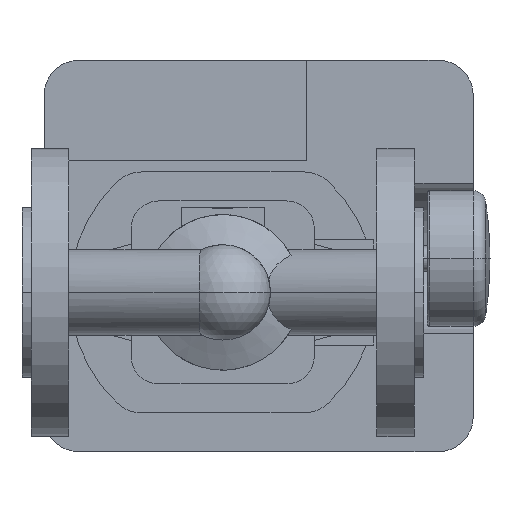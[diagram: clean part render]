
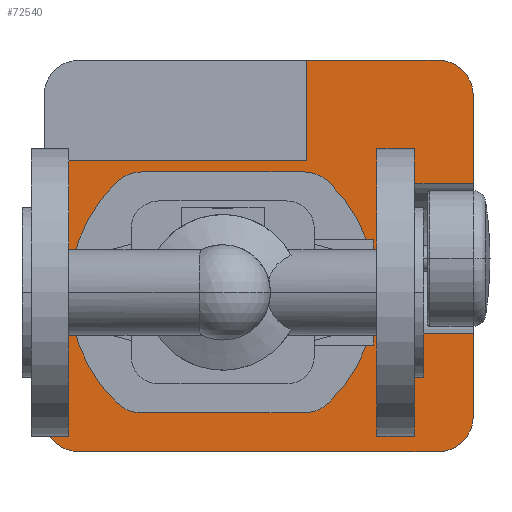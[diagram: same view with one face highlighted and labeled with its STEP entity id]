
A CAD part, front view. The second image highlights one B-rep face of the part: STEP entity #72540.
In plain terms, the highlighted planar face has unit normal (0, -1, 0).
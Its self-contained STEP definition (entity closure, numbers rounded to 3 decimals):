
#58000=CARTESIAN_POINT('',(8.8,498.,-49.5));
#58010=DIRECTION('',(0.,0.,1.));
#58020=VECTOR('',#58010,1.);
#58030=LINE('',#58000,#58020);
#58040=CARTESIAN_POINT('',(8.8,498.,-49.5));
#58050=VERTEX_POINT('',#58040);
#58060=CARTESIAN_POINT('',(8.8,498.,52.5));
#58070=VERTEX_POINT('',#58060);
#58080=EDGE_CURVE('',#58050,#58070,#58030,.T.);
#58640=CARTESIAN_POINT('',(22.8,498.,-49.5));
#58650=DIRECTION('',(0.,1.,0.));
#58660=DIRECTION('',(0.,0.,-1.));
#58670=AXIS2_PLACEMENT_3D('',#58640,#58650,#58660);
#58680=CIRCLE('',#58670,14.);
#58690=CARTESIAN_POINT('',(22.8,498.,-63.5));
#58700=VERTEX_POINT('',#58690);
#58710=EDGE_CURVE('',#58700,#58050,#58680,.T.);
#59250=CARTESIAN_POINT('',(165.8,498.,92.5));
#59260=VERTEX_POINT('',#59250);
#59290=CARTESIAN_POINT('',(22.8,498.,92.5));
#59300=DIRECTION('',(1.,0.,0.));
#59310=VECTOR('',#59300,1.);
#59320=LINE('',#59290,#59310);
#59330=CARTESIAN_POINT('',(113.3,498.,92.5));
#59340=VERTEX_POINT('',#59330);
#59350=EDGE_CURVE('',#59340,#59260,#59320,.T.);
#59670=CARTESIAN_POINT('',(165.8,498.,-63.5));
#59680=DIRECTION('',(-1.,0.,0.));
#59690=VECTOR('',#59680,1.);
#59700=LINE('',#59670,#59690);
#59710=CARTESIAN_POINT('',(165.8,498.,-63.5));
#59720=VERTEX_POINT('',#59710);
#59730=EDGE_CURVE('',#59720,#58700,#59700,.T.);
#60920=CARTESIAN_POINT('',(179.8,498.,-16.5));
#60930=VERTEX_POINT('',#60920);
#60960=CARTESIAN_POINT('',(129.9,498.,-16.5));
#60970=DIRECTION('',(-1.,0.,0.));
#60980=VECTOR('',#60970,1.);
#60990=LINE('',#60960,#60980);
#61000=CARTESIAN_POINT('',(147.8,498.,-16.5));
#61010=VERTEX_POINT('',#61000);
#61020=EDGE_CURVE('',#60930,#61010,#60990,.T.);
#61650=CARTESIAN_POINT('',(129.9,498.,43.5));
#61660=DIRECTION('',(1.,0.,0.));
#61670=VECTOR('',#61660,1.);
#61680=LINE('',#61650,#61670);
#61690=CARTESIAN_POINT('',(147.8,498.,43.5));
#61700=VERTEX_POINT('',#61690);
#61710=CARTESIAN_POINT('',(179.8,498.,43.5));
#61720=VERTEX_POINT('',#61710);
#61730=EDGE_CURVE('',#61700,#61720,#61680,.T.);
#62080=CARTESIAN_POINT('',(147.8,498.,0.));
#62090=DIRECTION('',(0.,0.,1.));
#62100=VECTOR('',#62090,1.);
#62110=LINE('',#62080,#62100);
#62120=EDGE_CURVE('',#61010,#61700,#62110,.T.);
#62320=CARTESIAN_POINT('',(179.8,498.,78.5));
#62330=DIRECTION('',(0.,0.,-1.));
#62340=VECTOR('',#62330,1.);
#62350=LINE('',#62320,#62340);
#62360=CARTESIAN_POINT('',(179.8,498.,78.5));
#62370=VERTEX_POINT('',#62360);
#62380=EDGE_CURVE('',#62370,#61720,#62350,.T.);
#62510=CARTESIAN_POINT('',(179.8,498.,-49.5));
#62520=VERTEX_POINT('',#62510);
#62550=CARTESIAN_POINT('',(179.8,498.,78.5));
#62560=DIRECTION('',(0.,0.,-1.));
#62570=VECTOR('',#62560,1.);
#62580=LINE('',#62550,#62570);
#62590=EDGE_CURVE('',#60930,#62520,#62580,.T.);
#63190=CARTESIAN_POINT('',(139.96,498.,11.216));
#63200=VERTEX_POINT('',#63190);
#63230=CARTESIAN_POINT('',(130.,498.,0.));
#63240=DIRECTION('',(0.,1.,0.));
#63250=DIRECTION('',(0.,0.,1.));
#63260=AXIS2_PLACEMENT_3D('',#63230,#63240,#63250);
#63270=CIRCLE('',#63260,15.);
#63280=CARTESIAN_POINT('',(139.96,498.,-11.216));
#63290=VERTEX_POINT('',#63280);
#63300=EDGE_CURVE('',#63200,#63290,#63270,.T.);
#66440=CARTESIAN_POINT('',(122.116,498.,44.128));
#66450=VERTEX_POINT('',#66440);
#66480=CARTESIAN_POINT('',(80.,498.,0.));
#66490=DIRECTION('',(0.,1.,0.));
#66500=DIRECTION('',(0.69,0.,0.723));
#66510=AXIS2_PLACEMENT_3D('',#66480,#66490,#66500);
#66520=CIRCLE('',#66510,61.);
#66530=EDGE_CURVE('',#66450,#63200,#66520,.T.);
#66990=CARTESIAN_POINT('',(20.04,498.,-11.216));
#67000=VERTEX_POINT('',#66990);
#67030=CARTESIAN_POINT('',(30.,498.,0.));
#67040=DIRECTION('',(0.,1.,0.));
#67050=DIRECTION('',(0.,0.,-1.));
#67060=AXIS2_PLACEMENT_3D('',#67030,#67040,#67050);
#67070=CIRCLE('',#67060,15.);
#67080=CARTESIAN_POINT('',(20.04,498.,11.216));
#67090=VERTEX_POINT('',#67080);
#67100=EDGE_CURVE('',#67000,#67090,#67070,.T.);
#68440=CARTESIAN_POINT('',(37.884,498.,-44.128));
#68450=VERTEX_POINT('',#68440);
#68480=CARTESIAN_POINT('',(80.,498.,0.));
#68490=DIRECTION('',(0.,1.,0.));
#68500=DIRECTION('',(-0.69,0.,-0.723));
#68510=AXIS2_PLACEMENT_3D('',#68480,#68490,#68500);
#68520=CIRCLE('',#68510,61.);
#68530=EDGE_CURVE('',#68450,#67000,#68520,.T.);
#71380=CARTESIAN_POINT('',(80.,498.,0.));
#71390=DIRECTION('',(0.,1.,0.));
#71400=DIRECTION('',(0.,0.,1.));
#71410=AXIS2_PLACEMENT_3D('',#71380,#71390,#71400);
#71420=PLANE('',#71410);
#71430=ORIENTED_EDGE('',*,*,#62120,.T.);
#71440=ORIENTED_EDGE('',*,*,#61020,.T.);
#71450=ORIENTED_EDGE('',*,*,#62590,.F.);
#71460=CARTESIAN_POINT('',(165.8,498.,-49.5));
#71470=DIRECTION('',(0.,1.,0.));
#71480=DIRECTION('',(1.,0.,0.));
#71490=AXIS2_PLACEMENT_3D('',#71460,#71470,#71480);
#71500=CIRCLE('',#71490,14.);
#71510=EDGE_CURVE('',#62520,#59720,#71500,.T.);
#71520=ORIENTED_EDGE('',*,*,#71510,.F.);
#71530=ORIENTED_EDGE('',*,*,#59730,.F.);
#71540=ORIENTED_EDGE('',*,*,#58710,.F.);
#71550=ORIENTED_EDGE('',*,*,#58080,.F.);
#71560=CARTESIAN_POINT('',(43.9,498.,52.5));
#71570=DIRECTION('',(-1.,0.,0.));
#71580=VECTOR('',#71570,1.);
#71590=LINE('',#71560,#71580);
#71600=CARTESIAN_POINT('',(113.3,498.,52.5));
#71610=VERTEX_POINT('',#71600);
#71620=EDGE_CURVE('',#71610,#58070,#71590,.T.);
#71630=ORIENTED_EDGE('',*,*,#71620,.T.);
#71640=CARTESIAN_POINT('',(113.3,498.,26.25));
#71650=DIRECTION('',(0.,0.,-1.));
#71660=VECTOR('',#71650,1.);
#71670=LINE('',#71640,#71660);
#71680=EDGE_CURVE('',#59340,#71610,#71670,.T.);
#71690=ORIENTED_EDGE('',*,*,#71680,.T.);
#71700=ORIENTED_EDGE('',*,*,#59350,.F.);
#71710=CARTESIAN_POINT('',(165.8,498.,78.5));
#71720=DIRECTION('',(0.,1.,0.));
#71730=DIRECTION('',(0.,0.,1.));
#71740=AXIS2_PLACEMENT_3D('',#71710,#71720,#71730);
#71750=CIRCLE('',#71740,14.);
#71760=EDGE_CURVE('',#59260,#62370,#71750,.T.);
#71770=ORIENTED_EDGE('',*,*,#71760,.F.);
#71780=ORIENTED_EDGE('',*,*,#62380,.F.);
#71790=ORIENTED_EDGE('',*,*,#61730,.T.);
#71800=EDGE_LOOP('',(#71790,#71780,#71770,#71700,#71690,#71630,#71550,
#71540,#71530,#71520,#71450,#71440,#71430));
#71810=FACE_OUTER_BOUND('',#71800,.T.);
#71820=ORIENTED_EDGE('',*,*,#66530,.T.);
#71830=CARTESIAN_POINT('',(112.45,498.,34.));
#71840=DIRECTION('',(0.,1.,0.));
#71850=DIRECTION('',(0.,0.,1.));
#71860=AXIS2_PLACEMENT_3D('',#71830,#71840,#71850);
#71870=CIRCLE('',#71860,14.);
#71880=CARTESIAN_POINT('',(112.45,498.,48.));
#71890=VERTEX_POINT('',#71880);
#71900=EDGE_CURVE('',#71890,#66450,#71870,.T.);
#71910=ORIENTED_EDGE('',*,*,#71900,.T.);
#71920=CARTESIAN_POINT('',(63.775,498.,48.));
#71930=DIRECTION('',(1.,0.,0.));
#71940=VECTOR('',#71930,1.);
#71950=LINE('',#71920,#71940);
#71960=CARTESIAN_POINT('',(47.55,498.,48.));
#71970=VERTEX_POINT('',#71960);
#71980=EDGE_CURVE('',#71970,#71890,#71950,.T.);
#71990=ORIENTED_EDGE('',*,*,#71980,.T.);
#72000=CARTESIAN_POINT('',(47.55,498.,34.));
#72010=DIRECTION('',(0.,1.,0.));
#72020=DIRECTION('',(-0.69,0.,0.723));
#72030=AXIS2_PLACEMENT_3D('',#72000,#72010,#72020);
#72040=CIRCLE('',#72030,14.);
#72050=CARTESIAN_POINT('',(37.884,498.,44.128));
#72060=VERTEX_POINT('',#72050);
#72070=EDGE_CURVE('',#72060,#71970,#72040,.T.);
#72080=ORIENTED_EDGE('',*,*,#72070,.T.);
#72090=CARTESIAN_POINT('',(80.,498.,0.));
#72100=DIRECTION('',(0.,1.,0.));
#72110=DIRECTION('',(-0.69,0.,-0.723));
#72120=AXIS2_PLACEMENT_3D('',#72090,#72100,#72110);
#72130=CIRCLE('',#72120,61.);
#72140=EDGE_CURVE('',#67090,#72060,#72130,.T.);
#72150=ORIENTED_EDGE('',*,*,#72140,.T.);
#72160=ORIENTED_EDGE('',*,*,#67100,.T.);
#72170=ORIENTED_EDGE('',*,*,#68530,.T.);
#72180=CARTESIAN_POINT('',(47.55,498.,-34.));
#72190=DIRECTION('',(0.,1.,0.));
#72200=DIRECTION('',(0.,0.,-1.));
#72210=AXIS2_PLACEMENT_3D('',#72180,#72190,#72200);
#72220=CIRCLE('',#72210,14.);
#72230=CARTESIAN_POINT('',(47.55,498.,-48.));
#72240=VERTEX_POINT('',#72230);
#72250=EDGE_CURVE('',#72240,#68450,#72220,.T.);
#72260=ORIENTED_EDGE('',*,*,#72250,.T.);
#72270=CARTESIAN_POINT('',(96.225,498.,-48.));
#72280=DIRECTION('',(-1.,0.,0.));
#72290=VECTOR('',#72280,1.);
#72300=LINE('',#72270,#72290);
#72310=CARTESIAN_POINT('',(112.45,498.,-48.));
#72320=VERTEX_POINT('',#72310);
#72330=EDGE_CURVE('',#72320,#72240,#72300,.T.);
#72340=ORIENTED_EDGE('',*,*,#72330,.T.);
#72350=CARTESIAN_POINT('',(112.45,498.,-34.));
#72360=DIRECTION('',(0.,1.,0.));
#72370=DIRECTION('',(0.69,0.,-0.723));
#72380=AXIS2_PLACEMENT_3D('',#72350,#72360,#72370);
#72390=CIRCLE('',#72380,14.);
#72400=CARTESIAN_POINT('',(122.116,498.,-44.128));
#72410=VERTEX_POINT('',#72400);
#72420=EDGE_CURVE('',#72410,#72320,#72390,.T.);
#72430=ORIENTED_EDGE('',*,*,#72420,.T.);
#72440=CARTESIAN_POINT('',(80.,498.,0.));
#72450=DIRECTION('',(0.,1.,0.));
#72460=DIRECTION('',(0.69,0.,0.723));
#72470=AXIS2_PLACEMENT_3D('',#72440,#72450,#72460);
#72480=CIRCLE('',#72470,61.);
#72490=EDGE_CURVE('',#63290,#72410,#72480,.T.);
#72500=ORIENTED_EDGE('',*,*,#72490,.T.);
#72510=ORIENTED_EDGE('',*,*,#63300,.T.);
#72520=EDGE_LOOP('',(#72510,#72500,#72430,#72340,#72260,#72170,#72160,
#72150,#72080,#71990,#71910,#71820));
#72530=FACE_BOUND('',#72520,.T.);
#72540=ADVANCED_FACE('',(#71810,#72530),#71420,.F.);
